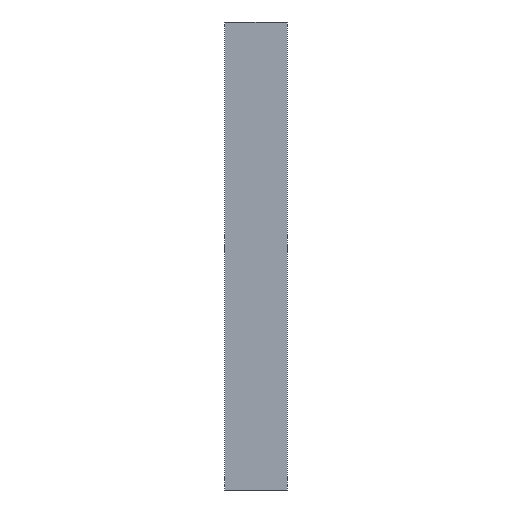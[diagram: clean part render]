
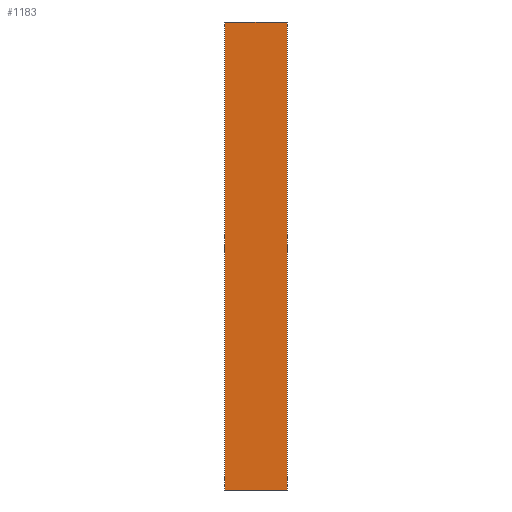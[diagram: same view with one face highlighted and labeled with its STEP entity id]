
A CAD part, front view. The second image highlights one B-rep face of the part: STEP entity #1183.
In plain terms, the highlighted planar face has unit normal (0, -1, 0).
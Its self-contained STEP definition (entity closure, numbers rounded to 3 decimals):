
#98 = ORIENTED_EDGE ( 'NONE', *, *, #1444, .F. ) ;
#210 = LINE ( 'NONE', #1576, #721 ) ;
#271 = CARTESIAN_POINT ( 'NONE',  ( -200., 0., 1500. ) ) ;
#304 = EDGE_LOOP ( 'NONE', ( #840, #2262, #98, #851 ) ) ;
#383 = DIRECTION ( 'NONE',  ( 1., 0., 0. ) ) ;
#441 = LINE ( 'NONE', #271, #509 ) ;
#509 = VECTOR ( 'NONE', #1424, 1000. ) ;
#520 = CARTESIAN_POINT ( 'NONE',  ( 200., 0., -1500. ) ) ;
#536 = VECTOR ( 'NONE', #2212, 1000. ) ;
#602 = LINE ( 'NONE', #1377, #2278 ) ;
#658 = EDGE_CURVE ( 'NONE', #1220, #2250, #1420, .T. ) ;
#721 = VECTOR ( 'NONE', #383, 1000. ) ;
#809 = DIRECTION ( 'NONE',  ( -1., 0., 0. ) ) ;
#840 = ORIENTED_EDGE ( 'NONE', *, *, #1507, .T. ) ;
#851 = ORIENTED_EDGE ( 'NONE', *, *, #1789, .T. ) ;
#1183 = ADVANCED_FACE ( 'NONE', ( #2343 ), #1189, .F. ) ;
#1189 = PLANE ( 'NONE',  #2157 ) ;
#1193 = DIRECTION ( 'NONE',  ( 1., 0., 0. ) ) ;
#1220 = VERTEX_POINT ( 'NONE', #2258 ) ;
#1377 = CARTESIAN_POINT ( 'NONE',  ( -200., 0., -1500. ) ) ;
#1420 = LINE ( 'NONE', #2059, #536 ) ;
#1424 = DIRECTION ( 'NONE',  ( 0., 0., -1. ) ) ;
#1444 = EDGE_CURVE ( 'NONE', #1893, #1220, #210, .T. ) ;
#1507 = EDGE_CURVE ( 'NONE', #1676, #2250, #602, .T. ) ;
#1574 = CARTESIAN_POINT ( 'NONE',  ( -200., 0., -1500. ) ) ;
#1576 = CARTESIAN_POINT ( 'NONE',  ( -200., 0., 1500. ) ) ;
#1676 = VERTEX_POINT ( 'NONE', #1574 ) ;
#1789 = EDGE_CURVE ( 'NONE', #1893, #1676, #441, .T. ) ;
#1860 = CARTESIAN_POINT ( 'NONE',  ( -200., 0., 1500. ) ) ;
#1893 = VERTEX_POINT ( 'NONE', #1860 ) ;
#1931 = CARTESIAN_POINT ( 'NONE',  ( -200., 0., 1500. ) ) ;
#2059 = CARTESIAN_POINT ( 'NONE',  ( 200., 0., 1500. ) ) ;
#2079 = DIRECTION ( 'NONE',  ( 0., 1., 0. ) ) ;
#2157 = AXIS2_PLACEMENT_3D ( 'NONE', #1931, #2079, #809 ) ;
#2212 = DIRECTION ( 'NONE',  ( 0., 0., -1. ) ) ;
#2250 = VERTEX_POINT ( 'NONE', #520 ) ;
#2258 = CARTESIAN_POINT ( 'NONE',  ( 200., 0., 1500. ) ) ;
#2262 = ORIENTED_EDGE ( 'NONE', *, *, #658, .F. ) ;
#2278 = VECTOR ( 'NONE', #1193, 1000. ) ;
#2343 = FACE_OUTER_BOUND ( 'NONE', #304, .T. ) ;
